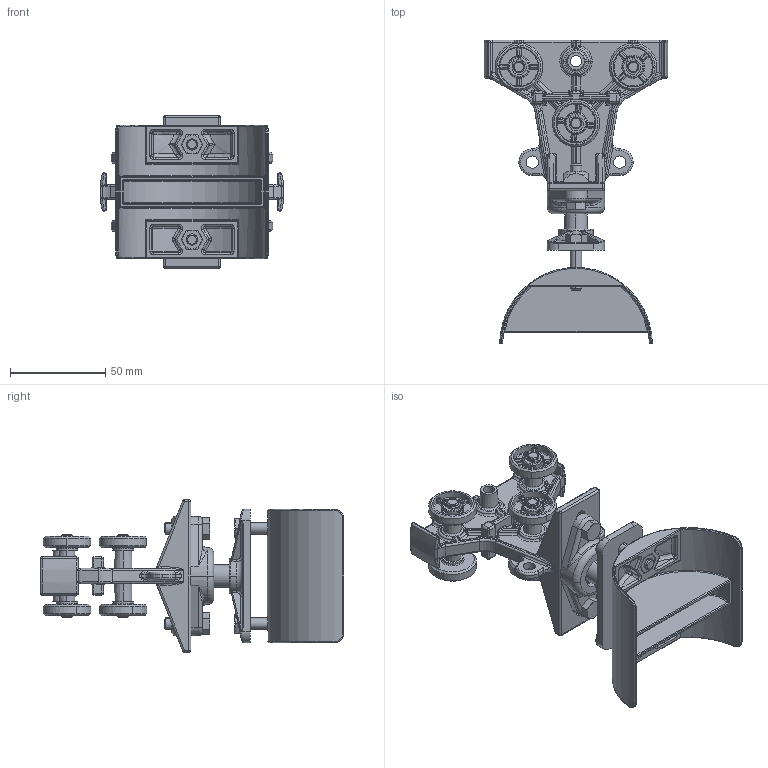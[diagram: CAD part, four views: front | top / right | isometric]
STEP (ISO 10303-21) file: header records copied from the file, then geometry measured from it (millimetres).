
FILE_DESCRIPTION (( 'STEP AP214' ), '1' );
FILE_NAME ('900.200.301.STEP', '2015-02-23T15:50:56', ( '' ), ( '' ), 'SwSTEP 2.0', 'SolidWorks 2012', '' );
FILE_SCHEMA (( 'AUTOMOTIVE_DESIGN' ));
Length unit declared in the file: millimetre
Products named in the file (14): VITI TSEI UNI 5933_M6x30 UNI 5933; DADI ESAGONALI NORMALI UNI 5588_M6 UNI 5588; VITI TE UNI 5739_M6x25 UNI 5739; VITI TE UNI 5739_M6x20 UNI 5739; 800.019.121; 900.200.013; 900.200.009; 900.200.014; 900.200.010; 900.200.015; circlip for shafts normal_din_Circlip DIN 471 - 6 x 0.7; 900.200.011; 900.200.301; 084.302.000 DADI ALUSIC 13x13-1_084.302.003
Assembly tree (29 placements, depth 2):
  900.200.301
    900.200.013
    800.019.121  x3
    900.200.009  x6
    900.200.010
    900.200.014
    900.200.015
    900.200.011
    circlip for shafts normal_din_Circlip DIN 471 - 6 x 0.7  x6
    084.302.000 DADI ALUSIC 13x13-1_084.302.003  x2
    VITI TE UNI 5739_M6x20 UNI 5739  x2
    VITI TSEI UNI 5933_M6x30 UNI 5933
    DADI ESAGONALI NORMALI UNI 5588_M6 UNI 5588  x2
    VITI TE UNI 5739_M6x25 UNI 5739  x2
Bounding box: 96.38 x 159.28 x 80 mm (x, y, z)
Volume: 111526.7 mm3; surface area: 84841.8 mm2
Topology: 29 solids, 29 shells, 2793 faces, 6492 edges, 3475 vertices
Faces by surface type: cylinder 993, plane 524, bspline 466, torus 385, sphere 303, cone 122
Entity records: 65674 total; most frequent: CARTESIAN_POINT 25649, DIRECTION 8378, ORIENTED_EDGE 8310, EDGE_CURVE 4155, AXIS2_PLACEMENT_3D 3504, VERTEX_POINT 2301, EDGE_LOOP 1988, CIRCLE 1944
